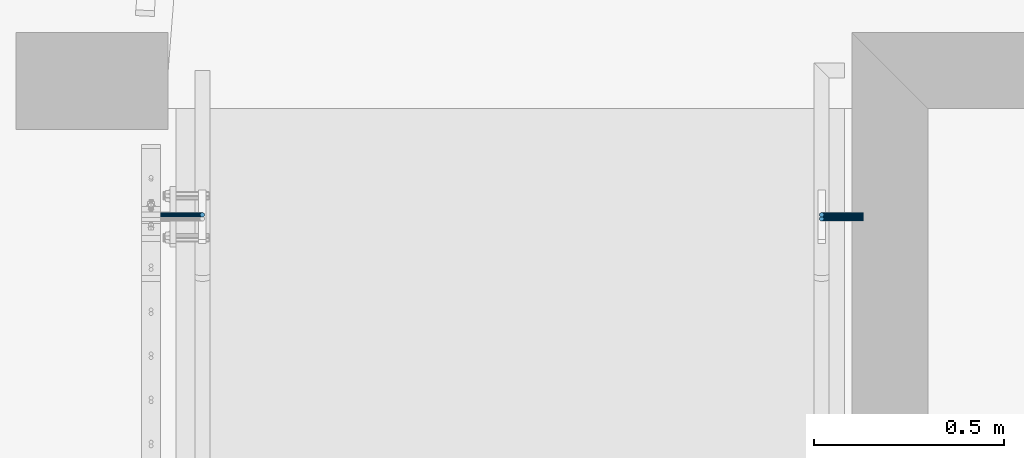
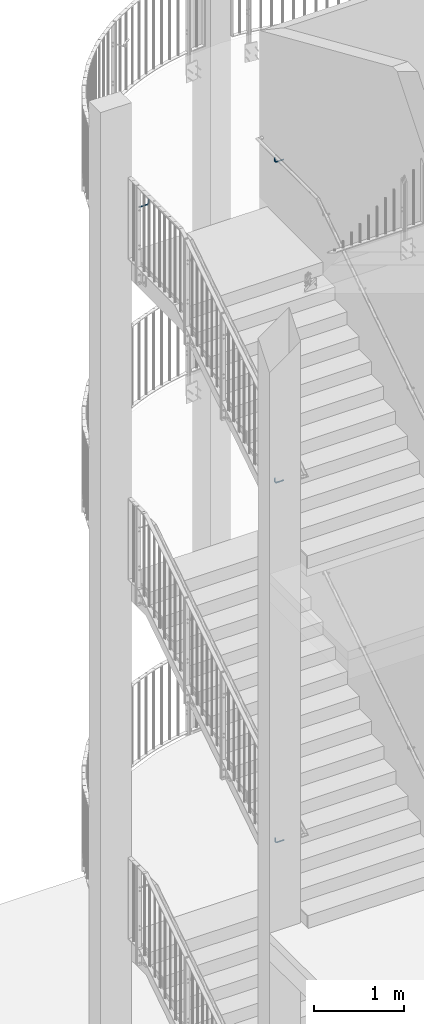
# One storey, part 138 of 296: 4 beams.
"""IFC2X3 building model written with IfcOpenShell, lengths in millimetres."""

from ifc_helpers import new_model, entity, si_unit, converted_unit, origin_with_axes, place, context, project, spatial, faceted_brep, material, element, save


model = new_model("IFC2X3")

# Units and contexts
model_context = context("Model", 3, precision=1e-09, world=origin_with_axes())
ifc_project = project(units=[si_unit("LENGTHUNIT", "METRE", prefix="MILLI"), si_unit("AREAUNIT", "SQUARE_METRE"), si_unit("VOLUMEUNIT", "CUBIC_METRE"), converted_unit("PLANEANGLEUNIT", "DEGREE", entity("IfcPlaneAngleMeasure", 0.01745329), si_unit("PLANEANGLEUNIT", "RADIAN"), dimensions=[0, 0, 0, 0, 0, 0, 0])], contexts=[model_context])

# Site, building, storey
site_placement = place(None, origin_with_axes())
site = spatial("IfcSite", under=ifc_project, at=site_placement, Name="TZD-S?d | Treppenhausgel?nder", CompositionType="ELEMENT")
building_placement = place(site_placement, origin_with_axes())
building = spatial("IfcBuilding", under=site, at=building_placement, Name="Struktur 1", CompositionType="ELEMENT")
storey_placement = place(building_placement, origin_with_axes())
storey = spatial("IfcBuildingStorey", under=building, at=storey_placement, Name="Default Storey", CompositionType="ELEMENT", Elevation=0.0)

# Beams
ifc_material = material(Name="S235JR")
beam_1_placement = place(None, origin_with_axes())
element("IfcBeam", 1, at=beam_1_placement, inside=storey, material=ifc_material, Name="-", ObjectType="-", context=model_context, shape_type="Brep", body=[
    faceted_brep([(1714.456722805, -482.296100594, 8209.999), (1715.757359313, -484.242640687, 8209.999), (1717.703899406, -485.543277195, 8209.999), (1720.0, -486.0, 8209.999), (1722.296100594, -485.543277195, 8209.999), (1724.242640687, -484.242640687, 8209.999), (1725.543277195, -482.296100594, 8209.999), (1726.0, -480.0, 8209.999), (1725.543277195, -477.703899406, 8209.999), (1724.242640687, -475.757359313, 8209.999), (1722.296100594, -474.456722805, 8209.999), (1720.0, -474.0, 8209.999), (1717.703899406, -474.456722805, 8209.999), (1715.757359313, -475.757359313, 8209.999), (1714.456722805, -477.703899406, 8209.999), (1714.0, -480.0, 8209.999), (1830.0, -484.242640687, 8140.756359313), (1830.0, -482.296100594, 8139.455722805), (1830.0, -480.0, 8138.999), (1830.0, -477.703899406, 8139.455722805), (1830.0, -475.757359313, 8140.756359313), (1830.0, -474.456722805, 8142.702899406), (1830.0, -474.0, 8144.999), (1830.0, -474.456722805, 8147.295100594), (1830.0, -475.757359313, 8149.241640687), (1830.0, -477.703899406, 8150.542277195), (1830.0, -480.0, 8150.999), (1830.0, -482.296100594, 8150.542277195), (1830.0, -484.242640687, 8149.241640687), (1830.0, -485.543277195, 8147.295100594), (1830.0, -486.0, 8144.999), (1830.0, -485.543277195, 8142.702899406), (1714.456722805, -482.296100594, 8164.999), (1715.757359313, -484.242640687, 8164.999), (1717.703899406, -485.543277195, 8164.999), (1720.0, -486.0, 8164.999), (1722.296100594, -485.543277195, 8164.999), (1724.242640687, -484.242640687, 8164.999), (1725.543277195, -482.296100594, 8164.999), (1726.0, -480.0, 8164.999), (1725.543277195, -477.703899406, 8164.999), (1724.242640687, -475.757359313, 8164.999), (1722.296100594, -474.456722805, 8164.999), (1720.0, -474.0, 8164.999), (1717.703899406, -474.456722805, 8164.999), (1715.757359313, -475.757359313, 8164.999), (1714.456722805, -477.703899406, 8164.999), (1714.0, -480.0, 8164.999), (1716.401089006, -482.296100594, 8155.224011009), (1717.602720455, -484.242640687, 8155.721743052), (1719.401089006, -485.543277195, 8156.466651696), (1721.52240935, -486.0, 8157.345331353), (1723.643729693, -485.543277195, 8158.224011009), (1725.442098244, -484.242640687, 8158.968919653), (1726.643729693, -482.296100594, 8159.466651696), (1727.065686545, -480.0, 8159.641431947), (1726.643729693, -477.703899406, 8159.466651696), (1725.442098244, -475.757359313, 8158.968919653), (1723.643729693, -474.456722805, 8158.224011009), (1721.52240935, -474.0, 8157.345331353), (1719.401089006, -474.456722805, 8156.466651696), (1717.602720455, -475.757359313, 8155.721743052), (1716.401089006, -477.703899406, 8155.224011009), (1715.979132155, -480.0, 8155.049230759), (1721.938175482, -482.296100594, 8146.937175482), (1722.857864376, -484.242640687, 8147.856864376), (1724.234276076, -485.543277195, 8149.233276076), (1725.857864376, -486.0, 8150.856864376), (1727.481452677, -485.543277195, 8152.480452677), (1728.857864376, -484.242640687, 8153.856864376), (1729.777553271, -482.296100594, 8154.776553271), (1730.100505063, -480.0, 8155.099505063), (1729.777553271, -477.703899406, 8154.776553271), (1728.857864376, -475.757359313, 8153.856864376), (1727.481452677, -474.456722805, 8152.480452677), (1725.857864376, -474.0, 8150.856864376), (1724.234276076, -474.456722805, 8149.233276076), (1722.857864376, -475.757359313, 8147.856864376), (1721.938175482, -477.703899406, 8146.937175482), (1721.615223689, -480.0, 8146.614223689), (1730.225011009, -482.296100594, 8141.400089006), (1730.722743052, -484.242640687, 8142.601720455), (1731.467651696, -485.543277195, 8144.400089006), (1732.346331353, -486.0, 8146.52140935), (1733.225011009, -485.543277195, 8148.642729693), (1733.969919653, -484.242640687, 8150.441098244), (1734.467651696, -482.296100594, 8151.642729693), (1734.642431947, -480.0, 8152.064686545), (1734.467651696, -477.703899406, 8151.642729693), (1733.969919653, -475.757359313, 8150.441098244), (1733.225011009, -474.456722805, 8148.642729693), (1732.346331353, -474.0, 8146.52140935), (1731.467651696, -474.456722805, 8144.400089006), (1730.722743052, -475.757359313, 8142.601720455), (1730.225011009, -477.703899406, 8141.400089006), (1730.050230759, -480.0, 8140.978132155), (1740.0, -482.296100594, 8139.455722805), (1740.0, -484.242640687, 8140.756359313), (1740.0, -485.543277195, 8142.702899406), (1740.0, -486.0, 8144.999), (1740.0, -485.543277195, 8147.295100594), (1740.0, -484.242640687, 8149.241640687), (1740.0, -482.296100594, 8150.542277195), (1740.0, -480.0, 8150.999), (1740.0, -477.703899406, 8150.542277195), (1740.0, -475.757359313, 8149.241640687), (1740.0, -474.456722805, 8147.295100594), (1740.0, -474.0, 8144.999), (1740.0, -474.456722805, 8142.702899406), (1740.0, -475.757359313, 8140.756359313), (1740.0, -477.703899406, 8139.455722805), (1740.0, -480.0, 8138.999)], [[[0, 1, 2, 3, 4, 5, 6, 7, 8, 9, 10, 11, 12, 13, 14, 15]], [[16, 17, 18, 19, 20, 21, 22, 23, 24, 25, 26, 27, 28, 29, 30, 31]], [[1, 0, 32, 33]], [[2, 1, 33, 34]], [[3, 2, 34, 35]], [[4, 3, 35, 36]], [[5, 4, 36, 37]], [[6, 5, 37, 38]], [[7, 6, 38, 39]], [[8, 7, 39, 40]], [[9, 8, 40, 41]], [[10, 9, 41, 42]], [[11, 10, 42, 43]], [[12, 11, 43, 44]], [[13, 12, 44, 45]], [[14, 13, 45, 46]], [[15, 14, 46, 47]], [[0, 15, 47, 32]], [[33, 32, 48, 49]], [[34, 33, 49, 50]], [[35, 34, 50, 51]], [[36, 35, 51, 52]], [[37, 36, 52, 53]], [[38, 37, 53, 54]], [[39, 38, 54, 55]], [[40, 39, 55, 56]], [[41, 40, 56, 57]], [[42, 41, 57, 58]], [[43, 42, 58, 59]], [[44, 43, 59, 60]], [[45, 44, 60, 61]], [[46, 45, 61, 62]], [[47, 46, 62, 63]], [[32, 47, 63, 48]], [[49, 48, 64, 65]], [[50, 49, 65, 66]], [[51, 50, 66, 67]], [[52, 51, 67, 68]], [[53, 52, 68, 69]], [[54, 53, 69, 70]], [[55, 54, 70, 71]], [[56, 55, 71, 72]], [[57, 56, 72, 73]], [[58, 57, 73, 74]], [[59, 58, 74, 75]], [[60, 59, 75, 76]], [[61, 60, 76, 77]], [[62, 61, 77, 78]], [[63, 62, 78, 79]], [[48, 63, 79, 64]], [[65, 64, 80, 81]], [[66, 65, 81, 82]], [[67, 66, 82, 83]], [[68, 67, 83, 84]], [[69, 68, 84, 85]], [[70, 69, 85, 86]], [[71, 70, 86, 87]], [[72, 71, 87, 88]], [[73, 72, 88, 89]], [[74, 73, 89, 90]], [[75, 74, 90, 91]], [[76, 75, 91, 92]], [[77, 76, 92, 93]], [[78, 77, 93, 94]], [[79, 78, 94, 95]], [[64, 79, 95, 80]], [[81, 80, 96, 97]], [[82, 81, 97, 98]], [[83, 82, 98, 99]], [[84, 83, 99, 100]], [[85, 84, 100, 101]], [[86, 85, 101, 102]], [[87, 86, 102, 103]], [[88, 87, 103, 104]], [[89, 88, 104, 105]], [[90, 89, 105, 106]], [[91, 90, 106, 107]], [[92, 91, 107, 108]], [[93, 92, 108, 109]], [[94, 93, 109, 110]], [[95, 94, 110, 111]], [[80, 95, 111, 96]], [[97, 96, 17, 16]], [[98, 97, 16, 31]], [[99, 98, 31, 30]], [[100, 99, 30, 29]], [[101, 100, 29, 28]], [[102, 101, 28, 27]], [[103, 102, 27, 26]], [[104, 103, 26, 25]], [[105, 104, 25, 24]], [[106, 105, 24, 23]], [[107, 106, 23, 22]], [[108, 107, 22, 21]], [[109, 108, 21, 20]], [[110, 109, 20, 19]], [[111, 110, 19, 18]], [[96, 111, 18, 17]]]),
])
beam_2_placement = place(None, origin_with_axes())
element("IfcBeam", 2, at=beam_2_placement, inside=storey, material=ifc_material, Name="-", ObjectType="-", context=model_context, shape_type="Brep", body=[
    faceted_brep([(1714.456722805, -492.296100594, 3309.998), (1715.757359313, -494.242640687, 3309.998), (1717.703899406, -495.543277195, 3309.998), (1720.0, -496.0, 3309.998), (1722.296100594, -495.543277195, 3309.998), (1724.242640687, -494.242640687, 3309.998), (1725.543277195, -492.296100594, 3309.998), (1726.0, -490.0, 3309.998), (1725.543277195, -487.703899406, 3309.998), (1724.242640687, -485.757359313, 3309.998), (1722.296100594, -484.456722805, 3309.998), (1720.0, -484.0, 3309.998), (1717.703899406, -484.456722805, 3309.998), (1715.757359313, -485.757359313, 3309.998), (1714.456722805, -487.703899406, 3309.998), (1714.0, -490.0, 3309.998), (1830.0, -494.242640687, 3240.755359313), (1830.0, -492.296100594, 3239.454722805), (1830.0, -490.0, 3238.998), (1830.0, -487.703899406, 3239.454722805), (1830.0, -485.757359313, 3240.755359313), (1830.0, -484.456722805, 3242.701899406), (1830.0, -484.0, 3244.998), (1830.0, -484.456722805, 3247.294100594), (1830.0, -485.757359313, 3249.240640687), (1830.0, -487.703899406, 3250.541277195), (1830.0, -490.0, 3250.998), (1830.0, -492.296100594, 3250.541277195), (1830.0, -494.242640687, 3249.240640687), (1830.0, -495.543277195, 3247.294100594), (1830.0, -496.0, 3244.998), (1830.0, -495.543277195, 3242.701899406), (1714.456722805, -492.296100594, 3264.998), (1715.757359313, -494.242640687, 3264.998), (1717.703899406, -495.543277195, 3264.998), (1720.0, -496.0, 3264.998), (1722.296100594, -495.543277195, 3264.998), (1724.242640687, -494.242640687, 3264.998), (1725.543277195, -492.296100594, 3264.998), (1726.0, -490.0, 3264.998), (1725.543277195, -487.703899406, 3264.998), (1724.242640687, -485.757359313, 3264.998), (1722.296100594, -484.456722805, 3264.998), (1720.0, -484.0, 3264.998), (1717.703899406, -484.456722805, 3264.998), (1715.757359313, -485.757359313, 3264.998), (1714.456722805, -487.703899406, 3264.998), (1714.0, -490.0, 3264.998), (1716.401089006, -492.296100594, 3255.223011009), (1717.602720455, -494.242640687, 3255.720743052), (1719.401089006, -495.543277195, 3256.465651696), (1721.52240935, -496.0, 3257.344331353), (1723.643729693, -495.543277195, 3258.223011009), (1725.442098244, -494.242640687, 3258.967919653), (1726.643729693, -492.296100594, 3259.465651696), (1727.065686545, -490.0, 3259.640431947), (1726.643729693, -487.703899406, 3259.465651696), (1725.442098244, -485.757359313, 3258.967919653), (1723.643729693, -484.456722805, 3258.223011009), (1721.52240935, -484.0, 3257.344331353), (1719.401089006, -484.456722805, 3256.465651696), (1717.602720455, -485.757359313, 3255.720743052), (1716.401089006, -487.703899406, 3255.223011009), (1715.979132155, -490.0, 3255.048230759), (1721.938175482, -492.296100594, 3246.936175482), (1722.857864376, -494.242640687, 3247.855864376), (1724.234276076, -495.543277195, 3249.232276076), (1725.857864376, -496.0, 3250.855864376), (1727.481452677, -495.543277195, 3252.479452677), (1728.857864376, -494.242640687, 3253.855864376), (1729.777553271, -492.296100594, 3254.775553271), (1730.100505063, -490.0, 3255.098505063), (1729.777553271, -487.703899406, 3254.775553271), (1728.857864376, -485.757359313, 3253.855864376), (1727.481452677, -484.456722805, 3252.479452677), (1725.857864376, -484.0, 3250.855864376), (1724.234276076, -484.456722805, 3249.232276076), (1722.857864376, -485.757359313, 3247.855864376), (1721.938175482, -487.703899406, 3246.936175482), (1721.615223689, -490.0, 3246.613223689), (1730.225011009, -492.296100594, 3241.399089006), (1730.722743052, -494.242640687, 3242.600720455), (1731.467651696, -495.543277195, 3244.399089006), (1732.346331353, -496.0, 3246.52040935), (1733.225011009, -495.543277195, 3248.641729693), (1733.969919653, -494.242640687, 3250.440098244), (1734.467651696, -492.296100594, 3251.641729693), (1734.642431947, -490.0, 3252.063686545), (1734.467651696, -487.703899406, 3251.641729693), (1733.969919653, -485.757359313, 3250.440098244), (1733.225011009, -484.456722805, 3248.641729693), (1732.346331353, -484.0, 3246.52040935), (1731.467651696, -484.456722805, 3244.399089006), (1730.722743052, -485.757359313, 3242.600720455), (1730.225011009, -487.703899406, 3241.399089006), (1730.050230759, -490.0, 3240.977132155), (1740.0, -492.296100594, 3239.454722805), (1740.0, -494.242640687, 3240.755359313), (1740.0, -495.543277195, 3242.701899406), (1740.0, -496.0, 3244.998), (1740.0, -495.543277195, 3247.294100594), (1740.0, -494.242640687, 3249.240640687), (1740.0, -492.296100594, 3250.541277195), (1740.0, -490.0, 3250.998), (1740.0, -487.703899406, 3250.541277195), (1740.0, -485.757359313, 3249.240640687), (1740.0, -484.456722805, 3247.294100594), (1740.0, -484.0, 3244.998), (1740.0, -484.456722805, 3242.701899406), (1740.0, -485.757359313, 3240.755359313), (1740.0, -487.703899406, 3239.454722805), (1740.0, -490.0, 3238.998)], [[[0, 1, 2, 3, 4, 5, 6, 7, 8, 9, 10, 11, 12, 13, 14, 15]], [[16, 17, 18, 19, 20, 21, 22, 23, 24, 25, 26, 27, 28, 29, 30, 31]], [[1, 0, 32, 33]], [[2, 1, 33, 34]], [[3, 2, 34, 35]], [[4, 3, 35, 36]], [[5, 4, 36, 37]], [[6, 5, 37, 38]], [[7, 6, 38, 39]], [[8, 7, 39, 40]], [[9, 8, 40, 41]], [[10, 9, 41, 42]], [[11, 10, 42, 43]], [[12, 11, 43, 44]], [[13, 12, 44, 45]], [[14, 13, 45, 46]], [[15, 14, 46, 47]], [[0, 15, 47, 32]], [[33, 32, 48, 49]], [[34, 33, 49, 50]], [[35, 34, 50, 51]], [[36, 35, 51, 52]], [[37, 36, 52, 53]], [[38, 37, 53, 54]], [[39, 38, 54, 55]], [[40, 39, 55, 56]], [[41, 40, 56, 57]], [[42, 41, 57, 58]], [[43, 42, 58, 59]], [[44, 43, 59, 60]], [[45, 44, 60, 61]], [[46, 45, 61, 62]], [[47, 46, 62, 63]], [[32, 47, 63, 48]], [[49, 48, 64, 65]], [[50, 49, 65, 66]], [[51, 50, 66, 67]], [[52, 51, 67, 68]], [[53, 52, 68, 69]], [[54, 53, 69, 70]], [[55, 54, 70, 71]], [[56, 55, 71, 72]], [[57, 56, 72, 73]], [[58, 57, 73, 74]], [[59, 58, 74, 75]], [[60, 59, 75, 76]], [[61, 60, 76, 77]], [[62, 61, 77, 78]], [[63, 62, 78, 79]], [[48, 63, 79, 64]], [[65, 64, 80, 81]], [[66, 65, 81, 82]], [[67, 66, 82, 83]], [[68, 67, 83, 84]], [[69, 68, 84, 85]], [[70, 69, 85, 86]], [[71, 70, 86, 87]], [[72, 71, 87, 88]], [[73, 72, 88, 89]], [[74, 73, 89, 90]], [[75, 74, 90, 91]], [[76, 75, 91, 92]], [[77, 76, 92, 93]], [[78, 77, 93, 94]], [[79, 78, 94, 95]], [[64, 79, 95, 80]], [[81, 80, 96, 97]], [[82, 81, 97, 98]], [[83, 82, 98, 99]], [[84, 83, 99, 100]], [[85, 84, 100, 101]], [[86, 85, 101, 102]], [[87, 86, 102, 103]], [[88, 87, 103, 104]], [[89, 88, 104, 105]], [[90, 89, 105, 106]], [[91, 90, 106, 107]], [[92, 91, 107, 108]], [[93, 92, 108, 109]], [[94, 93, 109, 110]], [[95, 94, 110, 111]], [[80, 95, 111, 96]], [[97, 96, 17, 16]], [[98, 97, 16, 31]], [[99, 98, 31, 30]], [[100, 99, 30, 29]], [[101, 100, 29, 28]], [[102, 101, 28, 27]], [[103, 102, 27, 26]], [[104, 103, 26, 25]], [[105, 104, 25, 24]], [[106, 105, 24, 23]], [[107, 106, 23, 22]], [[108, 107, 22, 21]], [[109, 108, 21, 20]], [[110, 109, 20, 19]], [[111, 110, 19, 18]], [[96, 111, 18, 17]]]),
])
beam_3_placement = place(None, origin_with_axes())
element("IfcBeam", 3, at=beam_3_placement, inside=storey, material=ifc_material, Name="-", ObjectType="-", context=model_context, shape_type="Brep", body=[
    faceted_brep([(1714.456722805, -482.296100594, 12585.0), (1715.757359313, -484.242640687, 12585.0), (1717.703899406, -485.543277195, 12585.0), (1720.0, -486.0, 12585.0), (1722.296100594, -485.543277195, 12585.0), (1724.242640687, -484.242640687, 12585.0), (1725.543277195, -482.296100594, 12585.0), (1726.0, -480.0, 12585.0), (1725.543277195, -477.703899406, 12585.0), (1724.242640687, -475.757359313, 12585.0), (1722.296100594, -474.456722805, 12585.0), (1720.0, -474.0, 12585.0), (1717.703899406, -474.456722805, 12585.0), (1715.757359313, -475.757359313, 12585.0), (1714.456722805, -477.703899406, 12585.0), (1714.0, -480.0, 12585.0), (1830.0, -484.242640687, 12515.757359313), (1830.0, -482.296100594, 12514.456722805), (1830.0, -480.0, 12514.0), (1830.0, -477.703899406, 12514.456722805), (1830.0, -475.757359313, 12515.757359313), (1830.0, -474.456722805, 12517.703899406), (1830.0, -474.0, 12520.0), (1830.0, -474.456722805, 12522.296100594), (1830.0, -475.757359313, 12524.242640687), (1830.0, -477.703899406, 12525.543277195), (1830.0, -480.0, 12526.0), (1830.0, -482.296100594, 12525.543277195), (1830.0, -484.242640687, 12524.242640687), (1830.0, -485.543277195, 12522.296100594), (1830.0, -486.0, 12520.0), (1830.0, -485.543277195, 12517.703899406), (1714.456722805, -482.296100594, 12540.0), (1715.757359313, -484.242640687, 12540.0), (1717.703899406, -485.543277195, 12540.0), (1720.0, -486.0, 12540.0), (1722.296100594, -485.543277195, 12540.0), (1724.242640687, -484.242640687, 12540.0), (1725.543277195, -482.296100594, 12540.0), (1726.0, -480.0, 12540.0), (1725.543277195, -477.703899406, 12540.0), (1724.242640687, -475.757359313, 12540.0), (1722.296100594, -474.456722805, 12540.0), (1720.0, -474.0, 12540.0), (1717.703899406, -474.456722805, 12540.0), (1715.757359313, -475.757359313, 12540.0), (1714.456722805, -477.703899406, 12540.0), (1714.0, -480.0, 12540.0), (1716.401089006, -482.296100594, 12530.225011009), (1717.602720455, -484.242640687, 12530.722743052), (1719.401089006, -485.543277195, 12531.467651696), (1721.52240935, -486.0, 12532.346331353), (1723.643729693, -485.543277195, 12533.225011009), (1725.442098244, -484.242640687, 12533.969919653), (1726.643729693, -482.296100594, 12534.467651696), (1727.065686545, -480.0, 12534.642431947), (1726.643729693, -477.703899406, 12534.467651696), (1725.442098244, -475.757359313, 12533.969919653), (1723.643729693, -474.456722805, 12533.225011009), (1721.52240935, -474.0, 12532.346331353), (1719.401089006, -474.456722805, 12531.467651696), (1717.602720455, -475.757359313, 12530.722743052), (1716.401089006, -477.703899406, 12530.225011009), (1715.979132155, -480.0, 12530.050230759), (1721.938175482, -482.296100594, 12521.938175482), (1722.857864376, -484.242640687, 12522.857864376), (1724.234276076, -485.543277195, 12524.234276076), (1725.857864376, -486.0, 12525.857864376), (1727.481452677, -485.543277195, 12527.481452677), (1728.857864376, -484.242640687, 12528.857864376), (1729.777553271, -482.296100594, 12529.777553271), (1730.100505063, -480.0, 12530.100505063), (1729.777553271, -477.703899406, 12529.777553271), (1728.857864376, -475.757359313, 12528.857864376), (1727.481452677, -474.456722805, 12527.481452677), (1725.857864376, -474.0, 12525.857864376), (1724.234276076, -474.456722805, 12524.234276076), (1722.857864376, -475.757359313, 12522.857864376), (1721.938175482, -477.703899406, 12521.938175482), (1721.615223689, -480.0, 12521.615223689), (1730.225011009, -482.296100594, 12516.401089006), (1730.722743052, -484.242640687, 12517.602720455), (1731.467651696, -485.543277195, 12519.401089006), (1732.346331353, -486.0, 12521.52240935), (1733.225011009, -485.543277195, 12523.643729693), (1733.969919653, -484.242640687, 12525.442098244), (1734.467651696, -482.296100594, 12526.643729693), (1734.642431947, -480.0, 12527.065686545), (1734.467651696, -477.703899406, 12526.643729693), (1733.969919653, -475.757359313, 12525.442098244), (1733.225011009, -474.456722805, 12523.643729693), (1732.346331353, -474.0, 12521.52240935), (1731.467651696, -474.456722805, 12519.401089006), (1730.722743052, -475.757359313, 12517.602720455), (1730.225011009, -477.703899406, 12516.401089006), (1730.050230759, -480.0, 12515.979132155), (1740.0, -482.296100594, 12514.456722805), (1740.0, -484.242640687, 12515.757359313), (1740.0, -485.543277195, 12517.703899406), (1740.0, -486.0, 12520.0), (1740.0, -485.543277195, 12522.296100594), (1740.0, -484.242640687, 12524.242640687), (1740.0, -482.296100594, 12525.543277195), (1740.0, -480.0, 12526.0), (1740.0, -477.703899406, 12525.543277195), (1740.0, -475.757359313, 12524.242640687), (1740.0, -474.456722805, 12522.296100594), (1740.0, -474.0, 12520.0), (1740.0, -474.456722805, 12517.703899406), (1740.0, -475.757359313, 12515.757359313), (1740.0, -477.703899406, 12514.456722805), (1740.0, -480.0, 12514.0)], [[[0, 1, 2, 3, 4, 5, 6, 7, 8, 9, 10, 11, 12, 13, 14, 15]], [[16, 17, 18, 19, 20, 21, 22, 23, 24, 25, 26, 27, 28, 29, 30, 31]], [[1, 0, 32, 33]], [[2, 1, 33, 34]], [[3, 2, 34, 35]], [[4, 3, 35, 36]], [[5, 4, 36, 37]], [[6, 5, 37, 38]], [[7, 6, 38, 39]], [[8, 7, 39, 40]], [[9, 8, 40, 41]], [[10, 9, 41, 42]], [[11, 10, 42, 43]], [[12, 11, 43, 44]], [[13, 12, 44, 45]], [[14, 13, 45, 46]], [[15, 14, 46, 47]], [[0, 15, 47, 32]], [[33, 32, 48, 49]], [[34, 33, 49, 50]], [[35, 34, 50, 51]], [[36, 35, 51, 52]], [[37, 36, 52, 53]], [[38, 37, 53, 54]], [[39, 38, 54, 55]], [[40, 39, 55, 56]], [[41, 40, 56, 57]], [[42, 41, 57, 58]], [[43, 42, 58, 59]], [[44, 43, 59, 60]], [[45, 44, 60, 61]], [[46, 45, 61, 62]], [[47, 46, 62, 63]], [[32, 47, 63, 48]], [[49, 48, 64, 65]], [[50, 49, 65, 66]], [[51, 50, 66, 67]], [[52, 51, 67, 68]], [[53, 52, 68, 69]], [[54, 53, 69, 70]], [[55, 54, 70, 71]], [[56, 55, 71, 72]], [[57, 56, 72, 73]], [[58, 57, 73, 74]], [[59, 58, 74, 75]], [[60, 59, 75, 76]], [[61, 60, 76, 77]], [[62, 61, 77, 78]], [[63, 62, 78, 79]], [[48, 63, 79, 64]], [[65, 64, 80, 81]], [[66, 65, 81, 82]], [[67, 66, 82, 83]], [[68, 67, 83, 84]], [[69, 68, 84, 85]], [[70, 69, 85, 86]], [[71, 70, 86, 87]], [[72, 71, 87, 88]], [[73, 72, 88, 89]], [[74, 73, 89, 90]], [[75, 74, 90, 91]], [[76, 75, 91, 92]], [[77, 76, 92, 93]], [[78, 77, 93, 94]], [[79, 78, 94, 95]], [[64, 79, 95, 80]], [[81, 80, 96, 97]], [[82, 81, 97, 98]], [[83, 82, 98, 99]], [[84, 83, 99, 100]], [[85, 84, 100, 101]], [[86, 85, 101, 102]], [[87, 86, 102, 103]], [[88, 87, 103, 104]], [[89, 88, 104, 105]], [[90, 89, 105, 106]], [[91, 90, 106, 107]], [[92, 91, 107, 108]], [[93, 92, 108, 109]], [[94, 93, 109, 110]], [[95, 94, 110, 111]], [[80, 95, 111, 96]], [[97, 96, 17, 16]], [[98, 97, 16, 31]], [[99, 98, 31, 30]], [[100, 99, 30, 29]], [[101, 100, 29, 28]], [[102, 101, 28, 27]], [[103, 102, 27, 26]], [[104, 103, 26, 25]], [[105, 104, 25, 24]], [[106, 105, 24, 23]], [[107, 106, 23, 22]], [[108, 107, 22, 21]], [[109, 108, 21, 20]], [[110, 109, 20, 19]], [[111, 110, 19, 18]], [[96, 111, 18, 17]]]),
])
beam_4_placement = place(None, origin_with_axes())
element("IfcBeam", 4, at=beam_4_placement, inside=storey, material=ifc_material, Name="-", ObjectType="-", context=model_context, shape_type="Brep", body=[
    faceted_brep([(94.242640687, -484.242640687, 12585.0), (95.543277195, -482.296100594, 12585.0), (96.0, -480.0, 12585.0), (95.543277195, -477.703899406, 12585.0), (94.242640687, -475.757359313, 12585.0), (92.296100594, -474.456722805, 12585.0), (90.0, -474.0, 12585.0), (87.703899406, -474.456722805, 12585.0), (85.757359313, -475.757359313, 12585.0), (84.456722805, -477.703899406, 12585.0), (84.0, -480.0, 12585.0), (84.456722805, -482.296100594, 12585.0), (85.757359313, -484.242640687, 12585.0), (87.703899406, -485.543277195, 12585.0), (90.0, -486.0, 12585.0), (92.296100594, -485.543277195, 12585.0), (-20.0, -482.296100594, 12514.456722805), (-20.0, -484.242640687, 12515.757359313), (-20.0, -485.543277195, 12517.703899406), (-20.0, -486.0, 12520.0), (-20.0, -485.543277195, 12522.296100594), (-20.0, -484.242640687, 12524.242640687), (-20.0, -482.296100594, 12525.543277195), (-20.0, -480.0, 12526.0), (-20.0, -477.703899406, 12525.543277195), (-20.0, -475.757359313, 12524.242640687), (-20.0, -474.456722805, 12522.296100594), (-20.0, -474.0, 12520.0), (-20.0, -474.456722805, 12517.703899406), (-20.0, -475.757359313, 12515.757359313), (-20.0, -477.703899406, 12514.456722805), (-20.0, -480.0, 12514.0), (94.242640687, -484.242640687, 12540.0), (95.543277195, -482.296100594, 12540.0), (92.296100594, -485.543277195, 12540.0), (90.0, -486.0, 12540.0), (87.703899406, -485.543277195, 12540.0), (85.757359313, -484.242640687, 12540.0), (84.456722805, -482.296100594, 12540.0), (84.0, -480.0, 12540.0), (84.456722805, -477.703899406, 12540.0), (85.757359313, -475.757359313, 12540.0), (87.703899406, -474.456722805, 12540.0), (90.0, -474.0, 12540.0), (92.296100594, -474.456722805, 12540.0), (94.242640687, -475.757359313, 12540.0), (95.543277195, -477.703899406, 12540.0), (96.0, -480.0, 12540.0), (92.397279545, -484.242640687, 12530.722743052), (93.598910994, -482.296100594, 12530.225011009), (90.598910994, -485.543277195, 12531.467651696), (88.47759065, -486.0, 12532.346331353), (86.356270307, -485.543277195, 12533.225011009), (84.557901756, -484.242640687, 12533.969919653), (83.356270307, -482.296100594, 12534.467651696), (82.934313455, -480.0, 12534.642431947), (83.356270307, -477.703899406, 12534.467651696), (84.557901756, -475.757359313, 12533.969919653), (86.356270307, -474.456722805, 12533.225011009), (88.47759065, -474.0, 12532.346331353), (90.598910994, -474.456722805, 12531.467651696), (92.397279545, -475.757359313, 12530.722743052), (93.598910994, -477.703899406, 12530.225011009), (94.020867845, -480.0, 12530.050230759), (87.142135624, -484.242640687, 12522.857864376), (88.061824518, -482.296100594, 12521.938175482), (85.765723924, -485.543277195, 12524.234276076), (84.142135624, -486.0, 12525.857864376), (82.518547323, -485.543277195, 12527.481452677), (81.142135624, -484.242640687, 12528.857864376), (80.222446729, -482.296100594, 12529.777553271), (79.899494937, -480.0, 12530.100505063), (80.222446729, -477.703899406, 12529.777553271), (81.142135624, -475.757359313, 12528.857864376), (82.518547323, -474.456722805, 12527.481452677), (84.142135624, -474.0, 12525.857864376), (85.765723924, -474.456722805, 12524.234276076), (87.142135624, -475.757359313, 12522.857864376), (88.061824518, -477.703899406, 12521.938175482), (88.384776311, -480.0, 12521.615223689), (79.277256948, -484.242640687, 12517.602720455), (79.774988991, -482.296100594, 12516.401089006), (78.532348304, -485.543277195, 12519.401089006), (77.653668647, -486.0, 12521.52240935), (76.774988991, -485.543277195, 12523.643729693), (76.030080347, -484.242640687, 12525.442098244), (75.532348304, -482.296100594, 12526.643729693), (75.357568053, -480.0, 12527.065686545), (75.532348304, -477.703899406, 12526.643729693), (76.030080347, -475.757359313, 12525.442098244), (76.774988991, -474.456722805, 12523.643729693), (77.653668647, -474.0, 12521.52240935), (78.532348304, -474.456722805, 12519.401089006), (79.277256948, -475.757359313, 12517.602720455), (79.774988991, -477.703899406, 12516.401089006), (79.949769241, -480.0, 12515.979132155), (70.0, -484.242640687, 12515.757359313), (70.0, -482.296100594, 12514.456722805), (70.0, -485.543277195, 12517.703899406), (70.0, -486.0, 12520.0), (70.0, -485.543277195, 12522.296100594), (70.0, -484.242640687, 12524.242640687), (70.0, -482.296100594, 12525.543277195), (70.0, -480.0, 12526.0), (70.0, -477.703899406, 12525.543277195), (70.0, -475.757359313, 12524.242640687), (70.0, -474.456722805, 12522.296100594), (70.0, -474.0, 12520.0), (70.0, -474.456722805, 12517.703899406), (70.0, -475.757359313, 12515.757359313), (70.0, -477.703899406, 12514.456722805), (70.0, -480.0, 12514.0)], [[[0, 1, 2, 3, 4, 5, 6, 7, 8, 9, 10, 11, 12, 13, 14, 15]], [[16, 17, 18, 19, 20, 21, 22, 23, 24, 25, 26, 27, 28, 29, 30, 31]], [[1, 0, 32, 33]], [[0, 15, 34, 32]], [[15, 14, 35, 34]], [[14, 13, 36, 35]], [[13, 12, 37, 36]], [[12, 11, 38, 37]], [[11, 10, 39, 38]], [[10, 9, 40, 39]], [[9, 8, 41, 40]], [[8, 7, 42, 41]], [[7, 6, 43, 42]], [[6, 5, 44, 43]], [[5, 4, 45, 44]], [[4, 3, 46, 45]], [[3, 2, 47, 46]], [[2, 1, 33, 47]], [[33, 32, 48, 49]], [[32, 34, 50, 48]], [[34, 35, 51, 50]], [[35, 36, 52, 51]], [[36, 37, 53, 52]], [[37, 38, 54, 53]], [[38, 39, 55, 54]], [[39, 40, 56, 55]], [[40, 41, 57, 56]], [[41, 42, 58, 57]], [[42, 43, 59, 58]], [[43, 44, 60, 59]], [[44, 45, 61, 60]], [[45, 46, 62, 61]], [[46, 47, 63, 62]], [[47, 33, 49, 63]], [[49, 48, 64, 65]], [[48, 50, 66, 64]], [[50, 51, 67, 66]], [[51, 52, 68, 67]], [[52, 53, 69, 68]], [[53, 54, 70, 69]], [[54, 55, 71, 70]], [[55, 56, 72, 71]], [[56, 57, 73, 72]], [[57, 58, 74, 73]], [[58, 59, 75, 74]], [[59, 60, 76, 75]], [[60, 61, 77, 76]], [[61, 62, 78, 77]], [[62, 63, 79, 78]], [[63, 49, 65, 79]], [[65, 64, 80, 81]], [[64, 66, 82, 80]], [[66, 67, 83, 82]], [[67, 68, 84, 83]], [[68, 69, 85, 84]], [[69, 70, 86, 85]], [[70, 71, 87, 86]], [[71, 72, 88, 87]], [[72, 73, 89, 88]], [[73, 74, 90, 89]], [[74, 75, 91, 90]], [[75, 76, 92, 91]], [[76, 77, 93, 92]], [[77, 78, 94, 93]], [[78, 79, 95, 94]], [[79, 65, 81, 95]], [[81, 80, 96, 97]], [[80, 82, 98, 96]], [[82, 83, 99, 98]], [[83, 84, 100, 99]], [[84, 85, 101, 100]], [[85, 86, 102, 101]], [[86, 87, 103, 102]], [[87, 88, 104, 103]], [[88, 89, 105, 104]], [[89, 90, 106, 105]], [[90, 91, 107, 106]], [[91, 92, 108, 107]], [[92, 93, 109, 108]], [[93, 94, 110, 109]], [[94, 95, 111, 110]], [[95, 81, 97, 111]], [[97, 96, 17, 16]], [[96, 98, 18, 17]], [[98, 99, 19, 18]], [[99, 100, 20, 19]], [[100, 101, 21, 20]], [[101, 102, 22, 21]], [[102, 103, 23, 22]], [[103, 104, 24, 23]], [[104, 105, 25, 24]], [[105, 106, 26, 25]], [[106, 107, 27, 26]], [[107, 108, 28, 27]], [[108, 109, 29, 28]], [[109, 110, 30, 29]], [[110, 111, 31, 30]], [[111, 97, 16, 31]]]),
])

save(model, "model.ifc")
